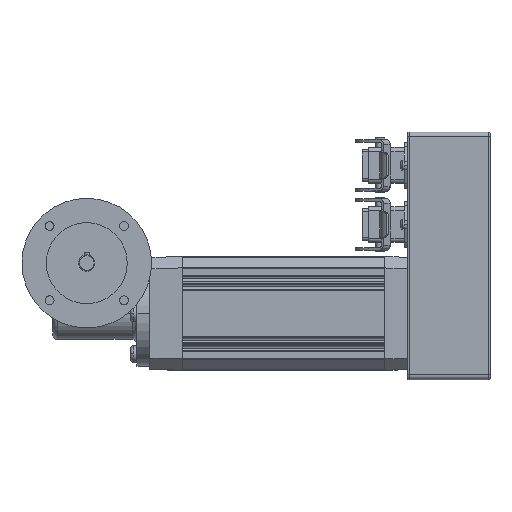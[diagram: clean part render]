
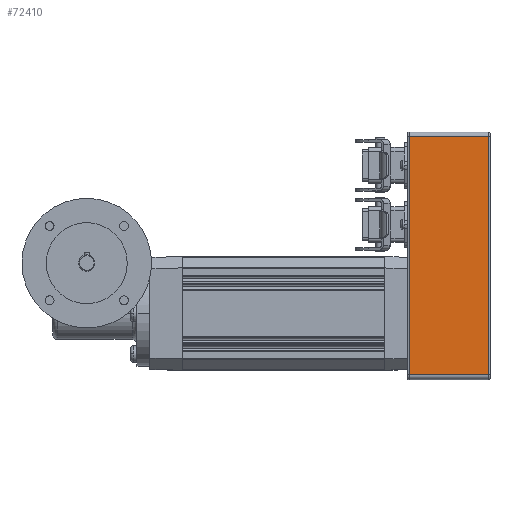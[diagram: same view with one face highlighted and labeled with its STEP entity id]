
A CAD part, top view. The second image highlights one B-rep face of the part: STEP entity #72410.
In plain terms, the highlighted planar face has unit normal (0, 0, 1) as drawn and (1, 0, 0) by its records, which use the part's own axes.
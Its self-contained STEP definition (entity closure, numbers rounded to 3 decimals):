
#69860=CARTESIAN_POINT('',(-91.958,-332.478,
-65.5));
#69870=VERTEX_POINT('',#69860);
#69900=CARTESIAN_POINT('',(-91.958,90.916,
-65.5));
#69910=DIRECTION('',(0.,-1.,0.));
#69920=VECTOR('',#69910,1.);
#69930=LINE('',#69900,#69920);
#69940=CARTESIAN_POINT('',(-91.958,-185.478,
-65.5));
#69950=VERTEX_POINT('',#69940);
#69960=EDGE_CURVE('',#69950,#69870,#69930,.T.);
#72110=CARTESIAN_POINT('',(-91.958,-215.205,
-13.5));
#72120=DIRECTION('',(1.,0.,0.));
#72130=DIRECTION('',(0.,-1.,0.));
#72140=AXIS2_PLACEMENT_3D('',#72110,#72120,#72130);
#72150=PLANE('',#72140);
#72160=CARTESIAN_POINT('',(-91.958,-185.478,
-159.958));
#72170=DIRECTION('',(0.,0.,1.));
#72180=VECTOR('',#72170,1.);
#72190=LINE('',#72160,#72180);
#72200=CARTESIAN_POINT('',(-91.958,-185.478,
-16.5));
#72210=VERTEX_POINT('',#72200);
#72220=EDGE_CURVE('',#69950,#72210,#72190,.T.);
#72230=ORIENTED_EDGE('',*,*,#72220,.T.);
#72240=ORIENTED_EDGE('',*,*,#69960,.F.);
#72250=CARTESIAN_POINT('',(-91.958,-332.478,
-159.958));
#72260=DIRECTION('',(0.,0.,-1.));
#72270=VECTOR('',#72260,1.);
#72280=LINE('',#72250,#72270);
#72290=CARTESIAN_POINT('',(-91.958,-332.478,
-16.5));
#72300=VERTEX_POINT('',#72290);
#72310=EDGE_CURVE('',#72300,#69870,#72280,.T.);
#72320=ORIENTED_EDGE('',*,*,#72310,.T.);
#72330=CARTESIAN_POINT('',(-91.958,90.916,
-16.5));
#72340=DIRECTION('',(0.,-1.,0.));
#72350=VECTOR('',#72340,1.);
#72360=LINE('',#72330,#72350);
#72370=EDGE_CURVE('',#72210,#72300,#72360,.T.);
#72380=ORIENTED_EDGE('',*,*,#72370,.T.);
#72390=EDGE_LOOP('',(#72380,#72320,#72240,#72230));
#72400=FACE_OUTER_BOUND('',#72390,.T.);
#72410=ADVANCED_FACE('',(#72400),#72150,.T.);
